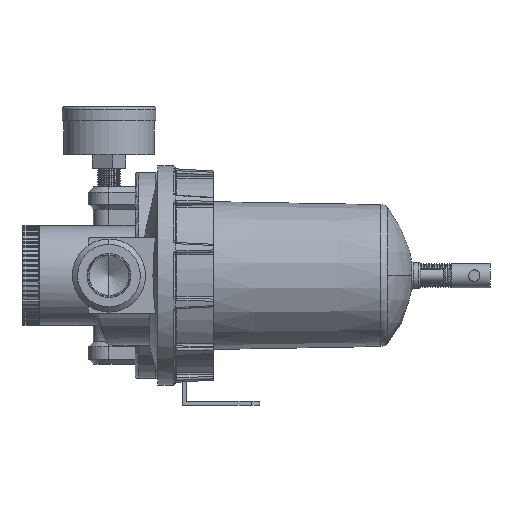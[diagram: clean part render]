
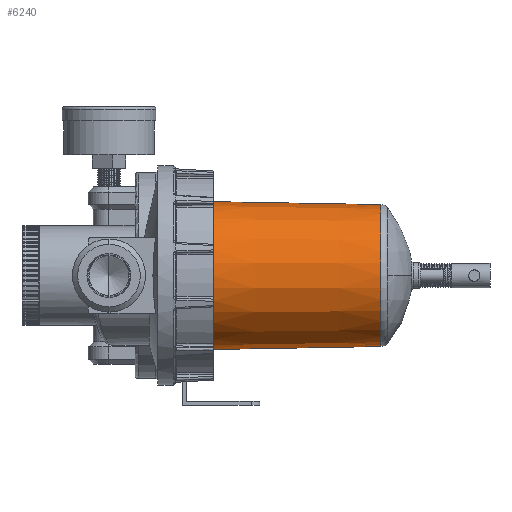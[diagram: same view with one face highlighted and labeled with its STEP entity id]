
A CAD part, left-side view. The second image highlights one B-rep face of the part: STEP entity #6240.
In plain terms, the highlighted conical face has half-angle 1 degrees and reference radius 40.75 mm.
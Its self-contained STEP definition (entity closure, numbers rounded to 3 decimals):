
#793 = CARTESIAN_POINT ( 'NONE',  ( 0., 0., 0. ) ) ;
#3732 = ORIENTED_EDGE ( 'NONE', *, *, #20577, .F. ) ;
#3933 = DIRECTION ( 'NONE',  ( 0., 0., -1. ) ) ;
#6240 = ADVANCED_FACE ( 'NONE', ( #29405 ), #13225, .T. ) ;
#7744 = CARTESIAN_POINT ( 'NONE',  ( 0., 2.184, 0. ) ) ;
#8606 = DIRECTION ( 'NONE',  ( 0., 1., 0. ) ) ;
#10558 = CARTESIAN_POINT ( 'NONE',  ( 0., 98.5, 42.469 ) ) ;
#12407 = VECTOR ( 'NONE', #14625, 1000. ) ;
#13225 = CONICAL_SURFACE ( 'NONE', #37061, 40.75, 0.017 ) ;
#14625 = DIRECTION ( 'NONE',  ( 0., 1., 0.017 ) ) ;
#15778 = AXIS2_PLACEMENT_3D ( 'NONE', #7744, #35551, #3933 ) ;
#16716 = CARTESIAN_POINT ( 'NONE',  ( 0., 98.5, -42.469 ) ) ;
#19698 = CARTESIAN_POINT ( 'NONE',  ( 0., 98.5, 0. ) ) ;
#20577 = EDGE_CURVE ( 'NONE', #33990, #50956, #28330, .T. ) ;
#21765 = CARTESIAN_POINT ( 'NONE',  ( 0., 0., -40.75 ) ) ;
#23512 = ORIENTED_EDGE ( 'NONE', *, *, #25462, .T. ) ;
#23868 = DIRECTION ( 'NONE',  ( 0., 1., 0. ) ) ;
#25184 = LINE ( 'NONE', #31279, #12407 ) ;
#25462 = EDGE_CURVE ( 'NONE', #49932, #50956, #25184, .T. ) ;
#27881 = DIRECTION ( 'NONE',  ( 0., 0., 1. ) ) ;
#28330 = CIRCLE ( 'NONE', #40688, 42.469 ) ;
#29405 = FACE_OUTER_BOUND ( 'NONE', #41488, .T. ) ;
#29971 = LINE ( 'NONE', #21765, #31185 ) ;
#30409 = ORIENTED_EDGE ( 'NONE', *, *, #46152, .T. ) ;
#31185 = VECTOR ( 'NONE', #41914, 1000. ) ;
#31279 = CARTESIAN_POINT ( 'NONE',  ( 0., 0., 40.75 ) ) ;
#32252 = DIRECTION ( 'NONE',  ( 0., 0., 1. ) ) ;
#32310 = EDGE_CURVE ( 'NONE', #44765, #33990, #29971, .T. ) ;
#33696 = CARTESIAN_POINT ( 'NONE',  ( 0., 2.184, 40.788 ) ) ;
#33990 = VERTEX_POINT ( 'NONE', #16716 ) ;
#35551 = DIRECTION ( 'NONE',  ( 0., 1., 0. ) ) ;
#35777 = CARTESIAN_POINT ( 'NONE',  ( 0., 2.184, -40.788 ) ) ;
#37061 = AXIS2_PLACEMENT_3D ( 'NONE', #793, #8606, #32252 ) ;
#40688 = AXIS2_PLACEMENT_3D ( 'NONE', #19698, #23868, #27881 ) ;
#41488 = EDGE_LOOP ( 'NONE', ( #51129, #30409, #23512, #3732 ) ) ;
#41914 = DIRECTION ( 'NONE',  ( 0., 1., -0.017 ) ) ;
#44765 = VERTEX_POINT ( 'NONE', #35777 ) ;
#45982 = CIRCLE ( 'NONE', #15778, 40.788 ) ;
#46152 = EDGE_CURVE ( 'NONE', #44765, #49932, #45982, .T. ) ;
#49932 = VERTEX_POINT ( 'NONE', #33696 ) ;
#50956 = VERTEX_POINT ( 'NONE', #10558 ) ;
#51129 = ORIENTED_EDGE ( 'NONE', *, *, #32310, .F. ) ;
